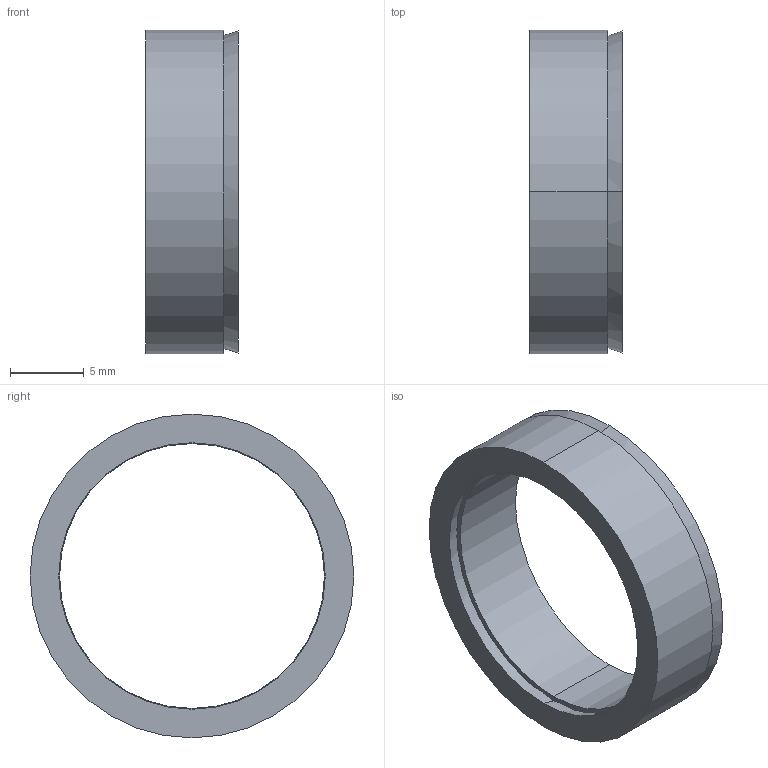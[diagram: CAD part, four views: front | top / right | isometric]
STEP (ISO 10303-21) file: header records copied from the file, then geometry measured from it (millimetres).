
FILE_DESCRIPTION (( 'STEP AP203' ), '1' );
FILE_NAME ('R-18-22.STEP', '2017-11-06T02:01:37', ( 'MYCOM' ), ( '' ), 'SwSTEP 2.0', 'SolidWorks 2015', '' );
FILE_SCHEMA (( 'CONFIG_CONTROL_DESIGN' ));
Length unit declared in the file: millimetre
Products named in the file (1): R-18-22
Bounding box: 6.3 x 22 x 22 mm (x, y, z)
Surface area: 1650.4 mm2 (no closed solid volume)
Topology: 0 solids, 2 shells, 12 faces, 24 edges, 16 vertices
Faces by surface type: cone 4, cylinder 4, plane 4
Entity records: 406 total; most frequent: DIRECTION 66, CARTESIAN_POINT 53, ORIENTED_EDGE 48, AXIS2_PLACEMENT_3D 29, EDGE_CURVE 24, VERTEX_POINT 16, CIRCLE 16, EDGE_LOOP 16
